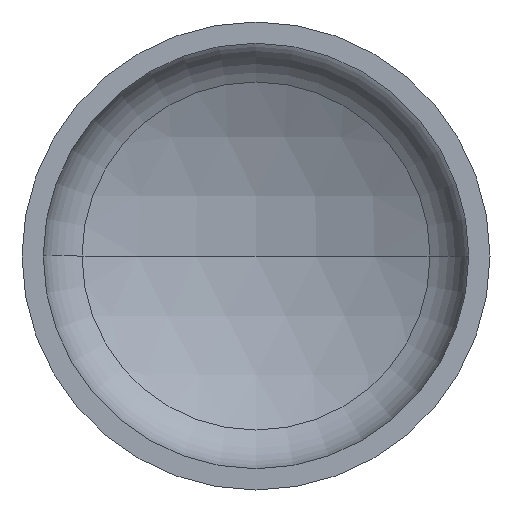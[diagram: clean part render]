
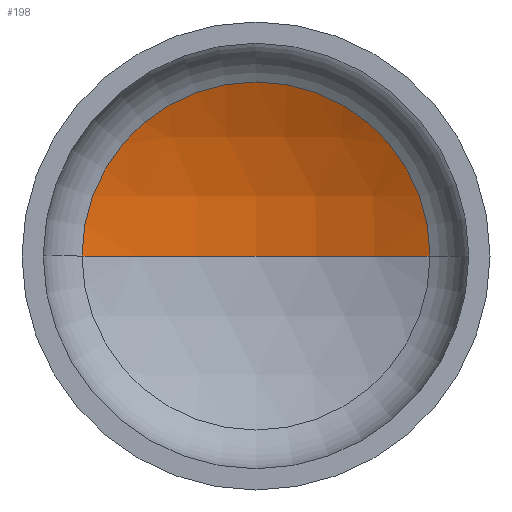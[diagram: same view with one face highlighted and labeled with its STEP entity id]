
A CAD part, front view. The second image highlights one B-rep face of the part: STEP entity #198.
In plain terms, the highlighted spherical face has radius 1760 mm.
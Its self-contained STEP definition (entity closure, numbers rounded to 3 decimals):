
#9 = AXIS2_PLACEMENT_3D ( 'NONE', #83, #127, #132 ) ;
#14 = CARTESIAN_POINT ( 'NONE',  ( 0., 602.701, 0. ) ) ;
#15 = AXIS2_PLACEMENT_3D ( 'NONE', #411, #230, #233 ) ;
#16 = VERTEX_POINT ( 'NONE', #249 ) ;
#33 = EDGE_LOOP ( 'NONE', ( #170, #150, #45 ) ) ;
#40 = AXIS2_PLACEMENT_3D ( 'NONE', #206, #183, #204 ) ;
#42 = AXIS2_PLACEMENT_3D ( 'NONE', #263, #381, #172 ) ;
#45 = ORIENTED_EDGE ( 'NONE', *, *, #360, .T. ) ;
#75 = VERTEX_POINT ( 'NONE', #398 ) ;
#83 = CARTESIAN_POINT ( 'NONE',  ( 0., 401.043, 0. ) ) ;
#127 = DIRECTION ( 'NONE',  ( 0., -1., 0. ) ) ;
#132 = DIRECTION ( 'NONE',  ( 1., 0., 0. ) ) ;
#138 = VERTEX_POINT ( 'NONE', #14 ) ;
#149 = SPHERICAL_SURFACE ( 'NONE', #40, 1760. ) ;
#150 = ORIENTED_EDGE ( 'NONE', *, *, #345, .T. ) ;
#170 = ORIENTED_EDGE ( 'NONE', *, *, #346, .F. ) ;
#172 = DIRECTION ( 'NONE',  ( -1., 0., 0. ) ) ;
#183 = DIRECTION ( 'NONE',  ( 0., 0., -1. ) ) ;
#198 = ADVANCED_FACE ( 'NONE', ( #226 ), #149, .F. ) ;
#203 = CIRCLE ( 'NONE', #15, 1760. ) ;
#204 = DIRECTION ( 'NONE',  ( -1., 0., 0. ) ) ;
#206 = CARTESIAN_POINT ( 'NONE',  ( 0., -1157.299, 0. ) ) ;
#214 = CIRCLE ( 'NONE', #42, 1760. ) ;
#226 = FACE_OUTER_BOUND ( 'NONE', #33, .T. ) ;
#230 = DIRECTION ( 'NONE',  ( 0., 0., 1. ) ) ;
#233 = DIRECTION ( 'NONE',  ( 1., 0., 0. ) ) ;
#249 = CARTESIAN_POINT ( 'NONE',  ( 818.028, 401.043, 0. ) ) ;
#263 = CARTESIAN_POINT ( 'NONE',  ( 0., -1157.299, 0. ) ) ;
#345 = EDGE_CURVE ( 'NONE', #138, #16, #214, .T. ) ;
#346 = EDGE_CURVE ( 'NONE', #138, #75, #203, .T. ) ;
#360 = EDGE_CURVE ( 'NONE', #16, #75, #374, .T. ) ;
#374 = CIRCLE ( 'NONE', #9, 818.028 ) ;
#381 = DIRECTION ( 'NONE',  ( 0., 0., -1. ) ) ;
#398 = CARTESIAN_POINT ( 'NONE',  ( -818.028, 401.043, 0. ) ) ;
#411 = CARTESIAN_POINT ( 'NONE',  ( 0., -1157.299, 0. ) ) ;
